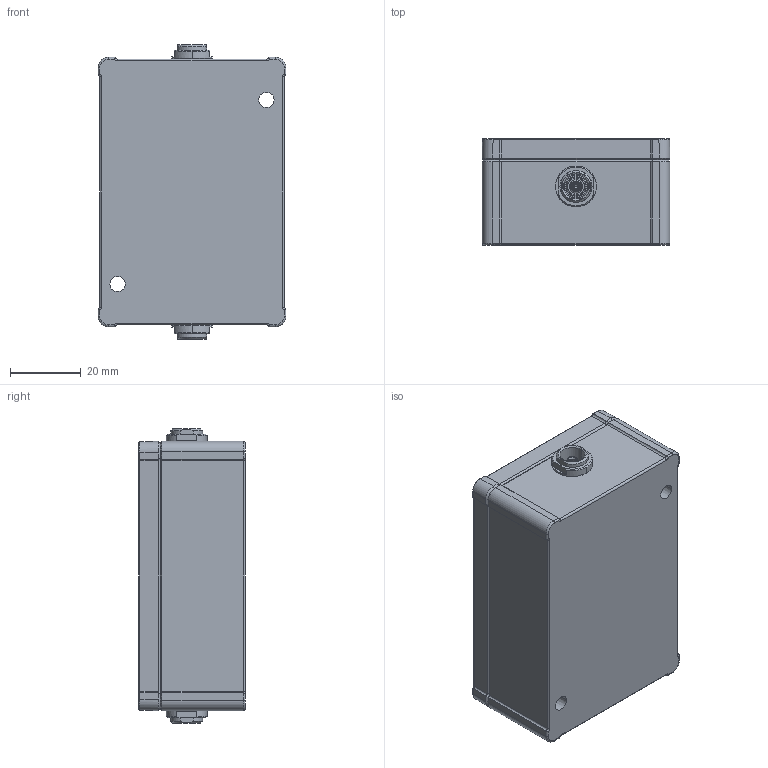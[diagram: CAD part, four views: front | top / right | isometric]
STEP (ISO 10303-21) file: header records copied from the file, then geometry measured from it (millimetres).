
FILE_DESCRIPTION((''),'2;1');
FILE_NAME('0000097348_ASM','2015-10-23T',('11000600'),(''),'PRO/ENGINEER BY PARAMETRIC TECHNOLOGY CORPORATION, 2015110','PRO/ENGINEER BY PARAMETRIC TECHNOLOGY CORPORATION, 2015110','');
FILE_SCHEMA(('AUTOMOTIVE_DESIGN { 1 0 10303 214 1 1 1 1 }'));
Products named in the file (8): 0000066437; 0000066545; 0000029309; 0323086; 0000036245; 0000036059; 0000039014; 0000097348_ASM
Assembly tree (10 placements, depth 2):
  0000097348_ASM
    0000066437
    0000066545
    0000029309
    0323086
    0000036245
    0000036059
    0000039014  x4
Bounding box: 53 x 30 x 83 mm (x, y, z)
Volume: 61609.7 mm3; surface area: 45327.1 mm2
Topology: 12 solids, 33 shells, 2101 faces, 5464 edges, 3460 vertices
Faces by surface type: plane 668, cylinder 597, cone 320, extrusion 177, torus 174, bspline 152, sphere 13
Entity records: 97923 total; most frequent: CARTESIAN_POINT 31965, ORIENTED_EDGE 10500, DIRECTION 9597, EDGE_CURVE 5276, PRESENTATION_STYLE_ASSIGNMENT 4540, STYLED_ITEM 4533, CURVE_STYLE 4516, AXIS2_PLACEMENT_3D 3546
